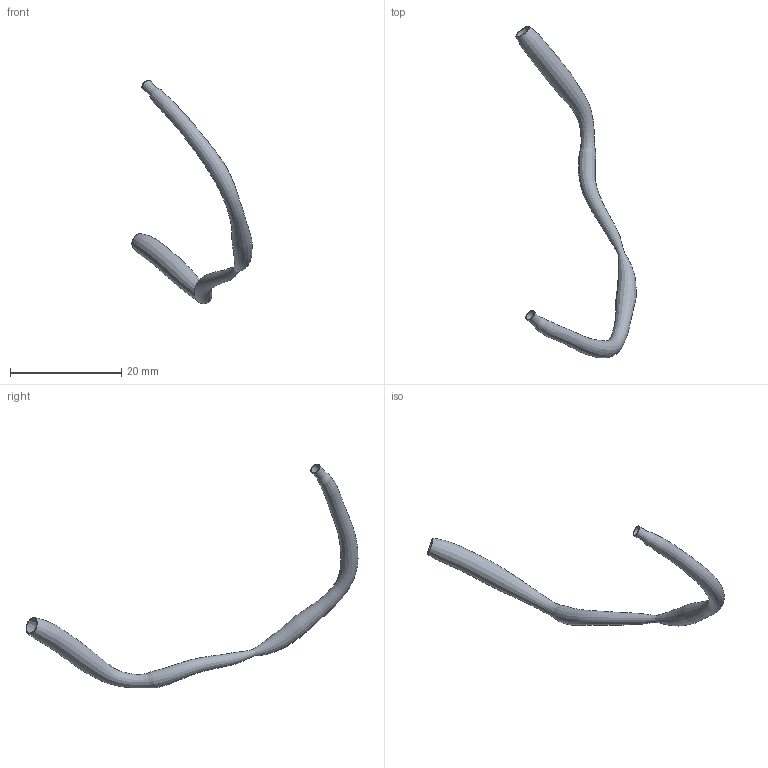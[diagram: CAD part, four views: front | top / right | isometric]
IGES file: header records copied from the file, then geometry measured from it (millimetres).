
Global section: file name: C:\Documents and Settings\Administrator\Desktop\FDA Bifurcation win\RawData_for_IGES\HRCA_Data\20010926.103228\IGES\20010926.103228.RCA.SEG.ES.igs; native system: Rhinoceros ( May 19 2006 ); preprocessor: Trout Lake IGES 012 May 19 2006; date: 100728.212728; units: centimetre
Bounding box: 21.56 x 59.57 x 40.14 mm (x, y, z)
Surface area: 1684.8 mm2 (no closed solid volume)
Topology: 0 solids, 0 shells, 4 faces, 12 edges, 8 vertices
Faces by surface type: bspline 4
